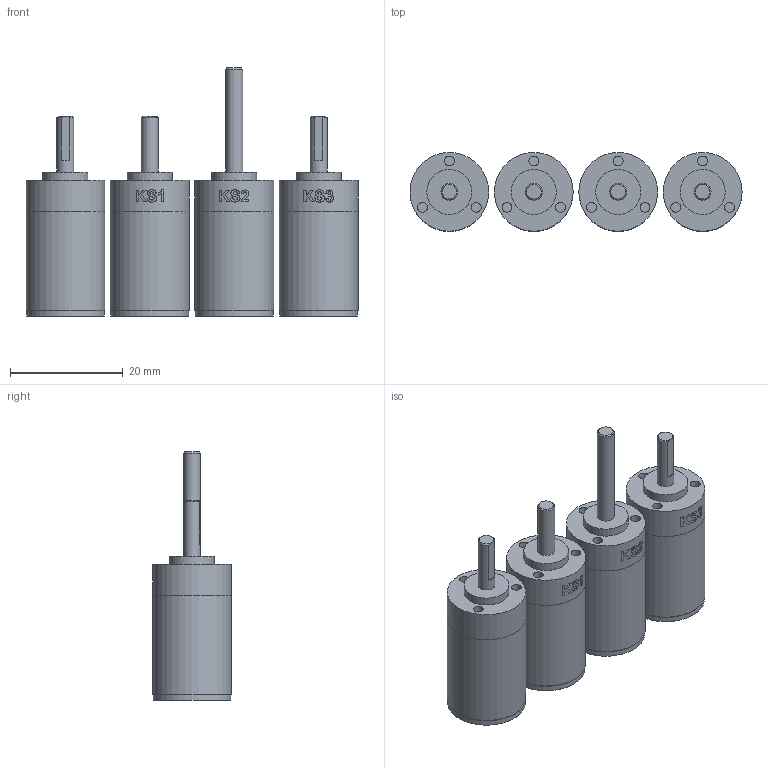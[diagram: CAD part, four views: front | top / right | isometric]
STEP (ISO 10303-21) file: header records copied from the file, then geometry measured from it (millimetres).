
FILE_DESCRIPTION(/* description */ (''),/* implementation_level */ '2;1');
FILE_NAME(/* name */ '14GPT-3stage_standard+KSx.stp',/* time_stamp */ '2024-10-30T09:10:13+01:00',/* author */ ('DR. FRITZ FAULHABER GmbH & Co. KG'),/* organization */ ('DR. FRITZ FAULHABER GmbH & Co. KG'),/* preprocessor_version */ 'ST-DEVELOPER v19.3',/* originating_system */ 'SIEMENS PLM Software NX2212.4000',/* authorisation */ '');
FILE_SCHEMA (('AUTOMOTIVE_DESIGN { 1 0 10303 214 3 1 1 1 }'));
Length unit declared in the file: millimetre
Products named in the file (1): A_objects
Bounding box: 59 x 14 x 44.1 mm (x, y, z)
Volume: 14292.8 mm3; surface area: 6736.8 mm2
Topology: 4 solids, 4 shells, 196 faces, 404 edges, 273 vertices
Faces by surface type: plane 91, cylinder 61, bspline 39, cone 5
Full cylindrical faces by diameter (mm): 1.75 x12, 2.651 x4, 3 x4, 8 x4, 9 x4, 12.8 x4, 13.4 x4, 13.8 x4, 13.999 x4, 14 x8
Entity records: 8758 total; most frequent: CARTESIAN_POINT 4627, ORIENTED_EDGE 664, DIRECTION 613, EDGE_CURVE 332, EDGE_LOOP 307, AXIS2_PLACEMENT_3D 287, VERTEX_POINT 255, FACE_BOUND 201
